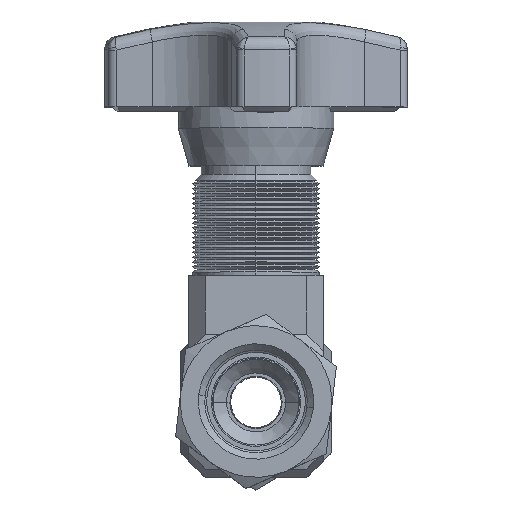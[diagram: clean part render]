
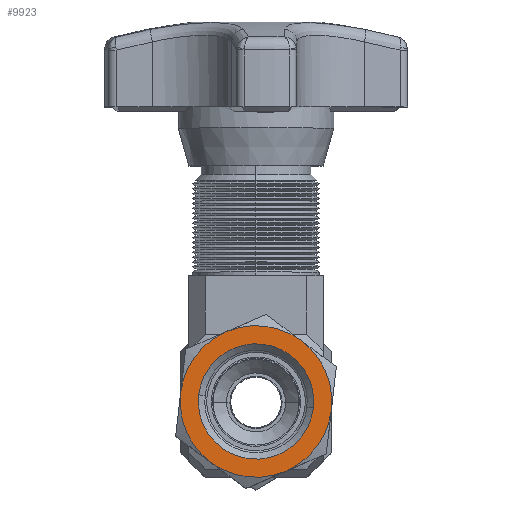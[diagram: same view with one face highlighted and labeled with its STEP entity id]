
A CAD part, top view. The second image highlights one B-rep face of the part: STEP entity #9923.
In plain terms, the highlighted planar face has unit normal (0, 0, 1).
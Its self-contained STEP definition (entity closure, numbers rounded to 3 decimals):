
#142 = ORIENTED_EDGE ( 'NONE', *, *, #3559, .T. ) ;
#791 = VERTEX_POINT ( 'NONE', #24350 ) ;
#892 = DIRECTION ( 'NONE',  ( 0., 0., 1. ) ) ;
#1037 = ORIENTED_EDGE ( 'NONE', *, *, #4374, .F. ) ;
#1140 = DIRECTION ( 'NONE',  ( 0.993, -0.115, 0. ) ) ;
#1902 = CARTESIAN_POINT ( 'NONE',  ( 0., 0., 8.5 ) ) ;
#2282 = ORIENTED_EDGE ( 'NONE', *, *, #21578, .T. ) ;
#2295 = CARTESIAN_POINT ( 'NONE',  ( -8.94, 1.037, 8.5 ) ) ;
#2542 = CIRCLE ( 'NONE', #24819, 9. ) ;
#2754 = DIRECTION ( 'NONE',  ( 0., 0., 1. ) ) ;
#3198 = CIRCLE ( 'NONE', #9810, 9. ) ;
#3559 = EDGE_CURVE ( 'NONE', #8289, #17724, #24869, .T. ) ;
#4032 = CARTESIAN_POINT ( 'NONE',  ( 0., 0., 8.5 ) ) ;
#4110 = DIRECTION ( 'NONE',  ( 0.993, -0.115, 0. ) ) ;
#4374 = EDGE_CURVE ( 'NONE', #9388, #7454, #21971, .T. ) ;
#5283 = DIRECTION ( 'NONE',  ( 0., 0., 1. ) ) ;
#5619 = CIRCLE ( 'NONE', #19088, 9. ) ;
#6638 = DIRECTION ( 'NONE',  ( 0.993, -0.115, 0. ) ) ;
#6818 = CARTESIAN_POINT ( 'NONE',  ( 0., 0., 8.5 ) ) ;
#6989 = FACE_BOUND ( 'NONE', #19476, .T. ) ;
#7075 = CARTESIAN_POINT ( 'NONE',  ( -5.368, -7.224, 8.5 ) ) ;
#7454 = VERTEX_POINT ( 'NONE', #20443 ) ;
#8093 = DIRECTION ( 'NONE',  ( 0., 0., 1. ) ) ;
#8289 = VERTEX_POINT ( 'NONE', #2295 ) ;
#8926 = EDGE_CURVE ( 'NONE', #7454, #9388, #20399, .T. ) ;
#9005 = DIRECTION ( 'NONE',  ( 0.993, -0.115, 0. ) ) ;
#9108 = CARTESIAN_POINT ( 'NONE',  ( -0.789, -6.804, 8.5 ) ) ;
#9388 = VERTEX_POINT ( 'NONE', #26480 ) ;
#9714 = EDGE_LOOP ( 'NONE', ( #2282, #26297, #25810, #142, #20822, #25614 ) ) ;
#9810 = AXIS2_PLACEMENT_3D ( 'NONE', #4032, #19718, #6638 ) ;
#9923 = ADVANCED_FACE ( 'NONE', ( #24406, #6989 ), #13400, .T. ) ;
#10926 = VERTEX_POINT ( 'NONE', #26684 ) ;
#11279 = DIRECTION ( 'NONE',  ( 0.993, -0.115, 0. ) ) ;
#13400 = PLANE ( 'NONE',  #27680 ) ;
#13990 = CARTESIAN_POINT ( 'NONE',  ( 0., 0., 8.5 ) ) ;
#14245 = DIRECTION ( 'NONE',  ( 0., 0., 1. ) ) ;
#14516 = CARTESIAN_POINT ( 'NONE',  ( 3.572, -8.261, 8.5 ) ) ;
#14651 = EDGE_CURVE ( 'NONE', #17724, #19060, #5619, .T. ) ;
#15088 = AXIS2_PLACEMENT_3D ( 'NONE', #27379, #14245, #1140 ) ;
#15828 = CARTESIAN_POINT ( 'NONE',  ( 0., 0., 8.5 ) ) ;
#16155 = DIRECTION ( 'NONE',  ( 0.993, -0.115, 0. ) ) ;
#16995 = EDGE_CURVE ( 'NONE', #19060, #10926, #3198, .T. ) ;
#17177 = DIRECTION ( 'NONE',  ( 0., 0., 1. ) ) ;
#17398 = AXIS2_PLACEMENT_3D ( 'NONE', #6818, #22094, #9005 ) ;
#17724 = VERTEX_POINT ( 'NONE', #7075 ) ;
#18047 = DIRECTION ( 'NONE',  ( 0.993, -0.115, 0. ) ) ;
#18370 = CARTESIAN_POINT ( 'NONE',  ( 0., 0., 8.5 ) ) ;
#19060 = VERTEX_POINT ( 'NONE', #14516 ) ;
#19088 = AXIS2_PLACEMENT_3D ( 'NONE', #15828, #2754, #18047 ) ;
#19389 = CIRCLE ( 'NONE', #15088, 9. ) ;
#19476 = EDGE_LOOP ( 'NONE', ( #27994, #1037 ) ) ;
#19718 = DIRECTION ( 'NONE',  ( 0., 0., 1. ) ) ;
#20224 = AXIS2_PLACEMENT_3D ( 'NONE', #13990, #892, #16155 ) ;
#20254 = CIRCLE ( 'NONE', #20224, 9. ) ;
#20399 = CIRCLE ( 'NONE', #21211, 6.85 ) ;
#20443 = CARTESIAN_POINT ( 'NONE',  ( 6.804, -0.789, 8.5 ) ) ;
#20560 = DIRECTION ( 'NONE',  ( 0.993, -0.115, 0. ) ) ;
#20822 = ORIENTED_EDGE ( 'NONE', *, *, #14651, .T. ) ;
#21188 = CARTESIAN_POINT ( 'NONE',  ( 0., 0., 8.5 ) ) ;
#21211 = AXIS2_PLACEMENT_3D ( 'NONE', #21188, #8093, #23398 ) ;
#21578 = EDGE_CURVE ( 'NONE', #10926, #791, #2542, .T. ) ;
#21971 = CIRCLE ( 'NONE', #17398, 6.85 ) ;
#22094 = DIRECTION ( 'NONE',  ( 0., 0., 1. ) ) ;
#22188 = CARTESIAN_POINT ( 'NONE',  ( -3.572, 8.261, 8.5 ) ) ;
#23398 = DIRECTION ( 'NONE',  ( 0.993, -0.115, 0. ) ) ;
#24044 = VERTEX_POINT ( 'NONE', #22188 ) ;
#24350 = CARTESIAN_POINT ( 'NONE',  ( 5.368, 7.224, 8.5 ) ) ;
#24403 = DIRECTION ( 'NONE',  ( 0., 0., 1. ) ) ;
#24406 = FACE_OUTER_BOUND ( 'NONE', #9714, .T. ) ;
#24819 = AXIS2_PLACEMENT_3D ( 'NONE', #18370, #5283, #20560 ) ;
#24869 = CIRCLE ( 'NONE', #26572, 9. ) ;
#25227 = EDGE_CURVE ( 'NONE', #791, #24044, #19389, .T. ) ;
#25614 = ORIENTED_EDGE ( 'NONE', *, *, #16995, .T. ) ;
#25810 = ORIENTED_EDGE ( 'NONE', *, *, #25869, .T. ) ;
#25869 = EDGE_CURVE ( 'NONE', #24044, #8289, #20254, .T. ) ;
#26297 = ORIENTED_EDGE ( 'NONE', *, *, #25227, .T. ) ;
#26480 = CARTESIAN_POINT ( 'NONE',  ( -6.804, 0.789, 8.5 ) ) ;
#26572 = AXIS2_PLACEMENT_3D ( 'NONE', #1902, #17177, #4110 ) ;
#26684 = CARTESIAN_POINT ( 'NONE',  ( 8.94, -1.037, 8.5 ) ) ;
#27379 = CARTESIAN_POINT ( 'NONE',  ( 0., 0., 8.5 ) ) ;
#27680 = AXIS2_PLACEMENT_3D ( 'NONE', #9108, #24403, #11279 ) ;
#27994 = ORIENTED_EDGE ( 'NONE', *, *, #8926, .F. ) ;
